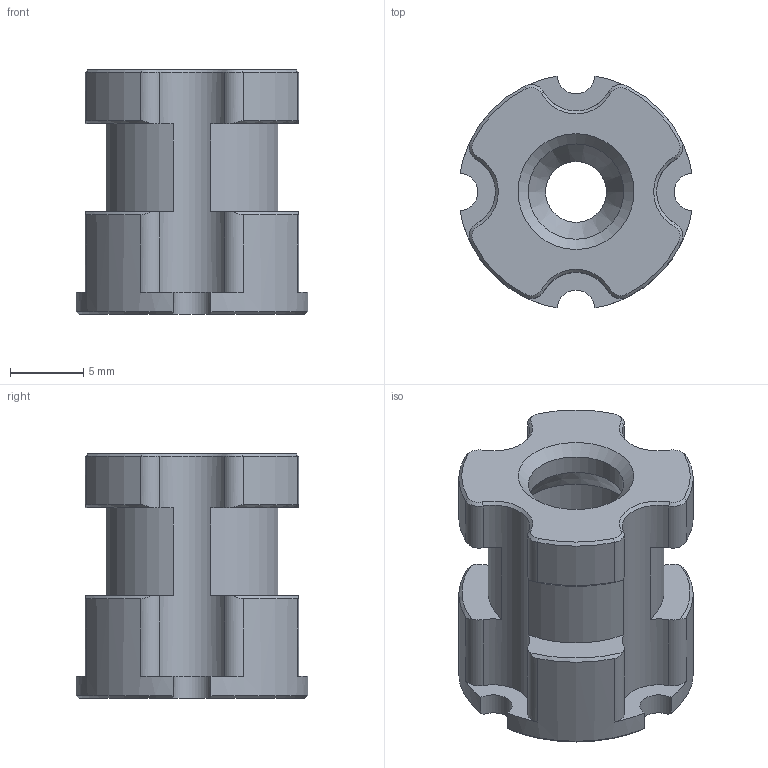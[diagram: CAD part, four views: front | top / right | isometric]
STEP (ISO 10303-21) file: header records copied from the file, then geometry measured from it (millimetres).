
FILE_DESCRIPTION(/* description */ ('Unknown'),/* implementation_level */ '2;1');
FILE_NAME(/* name */ 'V6 Dragon-4mm卡扣接头',/* time_stamp */ '2025-05-27T16:27:31+08:00',/* author */ ('Unknown'),/* organization */ ('Unknown'),/* preprocessor_version */ 'ST-DEVELOPER v18.102',/* originating_system */ 'Solid Edge',/* authorisation */ 'Unknown');
FILE_SCHEMA (('AUTOMOTIVE_DESIGN {1 0 10303 214 3 1 1}'));
Length unit declared in the file: millimetre
Products named in the file (1): V6 Dragon-4mm¿¨¿Ûªw³
Bounding box: 15.79 x 15.79 x 16.7 mm (x, y, z)
Volume: 1846 mm3; surface area: 1692.9 mm2
Topology: 1 solids, 1 shells, 93 faces, 242 edges, 156 vertices
Faces by surface type: cylinder 43, cone 31, plane 19
Full cylindrical faces by diameter (mm): 2 x4, 4.15 x1, 6.5 x1, 8.4 x1
Entity records: 3525 total; most frequent: CARTESIAN_POINT 546, DIRECTION 532, ORIENTED_EDGE 456, AXIS2_PLACEMENT_3D 234, EDGE_CURVE 228, VERTEX_POINT 152, CIRCLE 140, EDGE_LOOP 110
